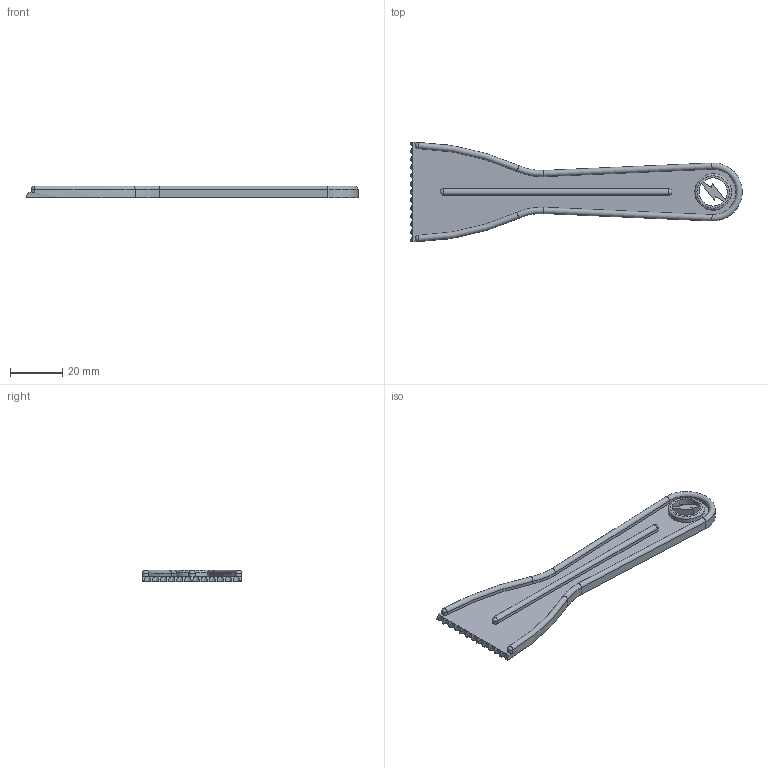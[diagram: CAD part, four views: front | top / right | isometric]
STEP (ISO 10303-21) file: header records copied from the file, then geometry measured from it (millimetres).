
FILE_DESCRIPTION(/* description */ (''),/* implementation_level */ '2;1');
FILE_NAME(/* name */ 'V:\2001-03-011\trunk\Release\2001-03-011_2-6.stp',/* time_stamp */ '2023-05-05T09:17:13-04:00',/* author */ ('cmurphy'),/* organization */ (''),/* preprocessor_version */ 'ST-DEVELOPER v18.1',/* originating_system */ 'Autodesk Inventor 2022',/* authorisation */ '');
FILE_SCHEMA (('AUTOMOTIVE_DESIGN { 1 0 10303 214 3 1 1 }'));
Length unit declared in the file: inch
Products named in the file (1): 2001-03-011
Bounding box: 127.26 x 38.1 x 4.41 mm (x, y, z)
Volume: 7790.4 mm3; surface area: 8108.5 mm2
Topology: 1 solids, 1 shells, 227 faces, 607 edges, 393 vertices
Faces by surface type: plane 113, bspline 84, cylinder 20, torus 6, sphere 4
Full cylindrical faces by diameter (mm): 13.97 x1
Entity records: 7501 total; most frequent: CARTESIAN_POINT 2269, ORIENTED_EDGE 1208, DIRECTION 838, EDGE_CURVE 604, VERTEX_POINT 393, LINE 370, VECTOR 370, EDGE_LOOP 245
